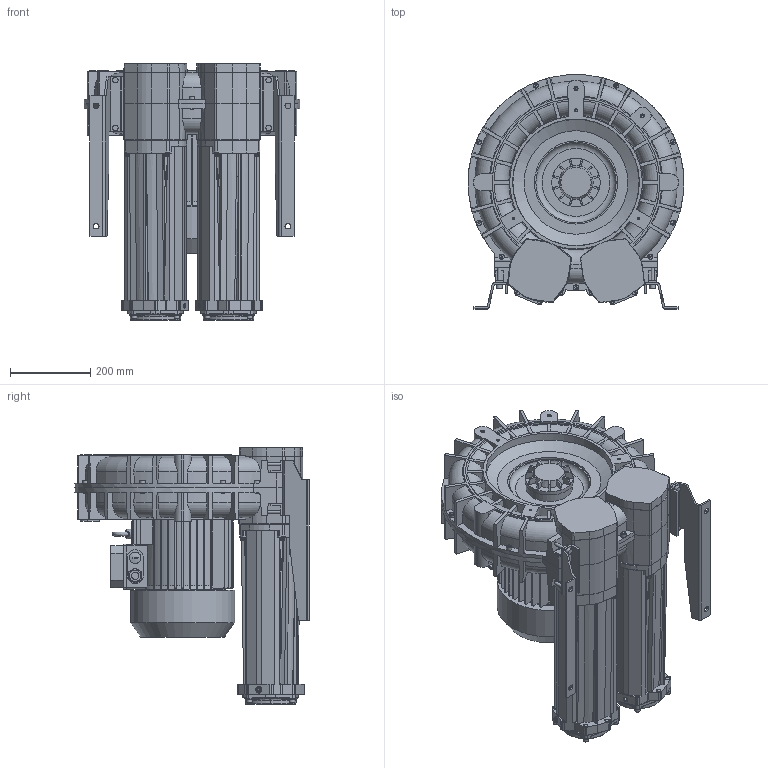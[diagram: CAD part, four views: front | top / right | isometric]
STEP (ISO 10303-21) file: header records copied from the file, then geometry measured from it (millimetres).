
FILE_DESCRIPTION (( 'STEP AP203' ), '1' );
FILE_NAME ('STP-L_e_10_MD_MOR_IE3WR_132_7.5kW-3_24-00.step', '2024-12-02T11:25:16', ( '' ), ( '' ), 'SwSTEP 2.0', 'SolidWorks 2023', '' );
FILE_SCHEMA (( 'CONFIG_CONTROL_DESIGN' ));
Length unit declared in the file: millimetre
Products named in the file (1): STP-L_e_10_MD_MOR_IE3WR_132_7.5kW-3_24-00
Bounding box: 537.57 x 583.15 x 639 mm (x, y, z)
Volume: 58095539.5 mm3; surface area: 3270845.6 mm2
Topology: 82 solids, 82 shells, 5645 faces, 14447 edges, 8982 vertices
Faces by surface type: plane 1928, cylinder 1848, bspline 826, torus 504, cone 482, sphere 57
Full cylindrical faces by diameter (mm): 6.8 x24, 7.5 x4, 8 x33, 8.4 x29, 8.5 x10, 8.566 x2, 8.8 x4, 9.98 x2, 10 x3, 11 x8, 12 x2, 12.02 x2, 13 x46, 14 x14, 16 x4, 16.5 x2, 18 x1, 19 x1, 20 x2, 21.4 x1, 24 x4, 25 x3, 28 x1, 110.4 x2, 115 x2, 120 x1, 128 x2, 207 x3, 213 x1, 259 x1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
Entity records: 269825 total; most frequent: CARTESIAN_POINT 143945, ORIENTED_EDGE 27508, DIRECTION 24164, EDGE_CURVE 13754, AXIS2_PLACEMENT_3D 9283, VERTEX_POINT 8781, EDGE_LOOP 6297, FACE_OUTER_BOUND 5935
